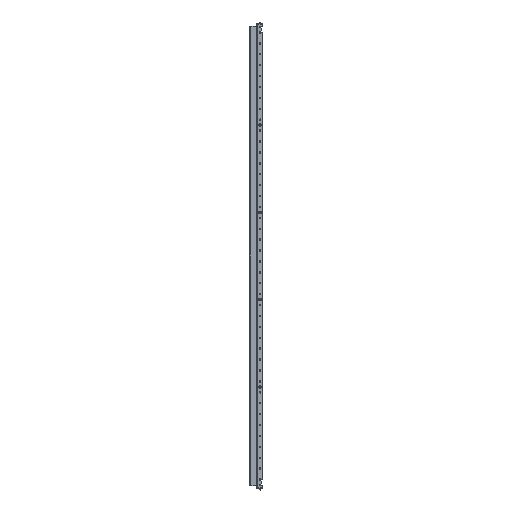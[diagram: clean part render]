
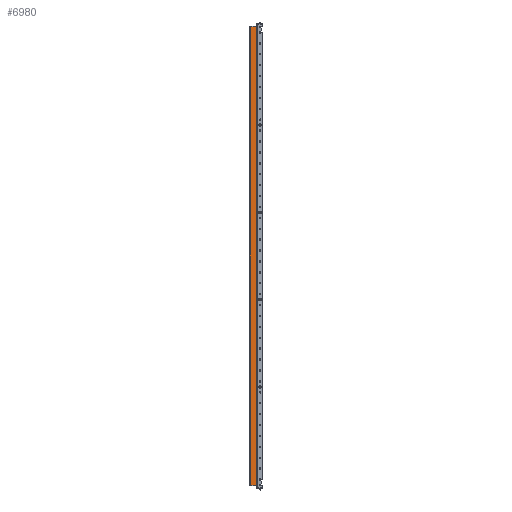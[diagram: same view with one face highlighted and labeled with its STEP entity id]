
A CAD part, front view. The second image highlights one B-rep face of the part: STEP entity #6980.
In plain terms, the highlighted planar face has unit normal (0, -1, 0).
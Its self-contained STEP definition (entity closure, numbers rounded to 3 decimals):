
#244 = DIRECTION ( 'NONE',  ( 0., 0., -1. ) ) ;
#884 = ORIENTED_EDGE ( 'NONE', *, *, #60366, .T. ) ;
#1297 = VECTOR ( 'NONE', #24193, 1000. ) ;
#3200 = PLANE ( 'NONE',  #31247 ) ;
#4088 = CARTESIAN_POINT ( 'NONE',  ( -26.493, -9.122, 3078. ) ) ;
#4331 = VECTOR ( 'NONE', #17402, 1000. ) ;
#4705 = CARTESIAN_POINT ( 'NONE',  ( -29.693, -9.122, 3090.5 ) ) ;
#6687 = VECTOR ( 'NONE', #29594, 1000. ) ;
#6980 = ADVANCED_FACE ( 'NONE', ( #31892 ), #3200, .F. ) ;
#10476 = CARTESIAN_POINT ( 'NONE',  ( 0.607, -9.122, 3078. ) ) ;
#11213 = CARTESIAN_POINT ( 'NONE',  ( -31.293, -9.122, 3078. ) ) ;
#12588 = ORIENTED_EDGE ( 'NONE', *, *, #25166, .T. ) ;
#12884 = VERTEX_POINT ( 'NONE', #13950 ) ;
#13492 = DIRECTION ( 'NONE',  ( 1., 0., 0. ) ) ;
#13672 = VERTEX_POINT ( 'NONE', #29780 ) ;
#13950 = CARTESIAN_POINT ( 'NONE',  ( -29.693, -9.122, 3078. ) ) ;
#14695 = LINE ( 'NONE', #48174, #4331 ) ;
#14963 = VECTOR ( 'NONE', #13492, 1000. ) ;
#15082 = ORIENTED_EDGE ( 'NONE', *, *, #50880, .F. ) ;
#17402 = DIRECTION ( 'NONE',  ( -1., 0., 0. ) ) ;
#17848 = DIRECTION ( 'NONE',  ( 0., 1., 0. ) ) ;
#18503 = EDGE_LOOP ( 'NONE', ( #49948, #15082, #40347, #12588, #18664, #48731, #46632, #884 ) ) ;
#18664 = ORIENTED_EDGE ( 'NONE', *, *, #39188, .F. ) ;
#19403 = CARTESIAN_POINT ( 'NONE',  ( -31.293, -9.122, 976. ) ) ;
#21361 = CARTESIAN_POINT ( 'NONE',  ( -26.493, -9.122, 976. ) ) ;
#22655 = VERTEX_POINT ( 'NONE', #40140 ) ;
#24193 = DIRECTION ( 'NONE',  ( 1., 0., 0. ) ) ;
#24873 = EDGE_CURVE ( 'NONE', #12884, #13672, #48053, .T. ) ;
#25166 = EDGE_CURVE ( 'NONE', #26850, #44383, #57151, .T. ) ;
#26850 = VERTEX_POINT ( 'NONE', #57609 ) ;
#29475 = CARTESIAN_POINT ( 'NONE',  ( 2.307, -9.122, 976. ) ) ;
#29594 = DIRECTION ( 'NONE',  ( -1., 0., 0. ) ) ;
#29780 = CARTESIAN_POINT ( 'NONE',  ( -29.693, -9.122, 976. ) ) ;
#29996 = VERTEX_POINT ( 'NONE', #4088 ) ;
#31233 = LINE ( 'NONE', #50683, #38200 ) ;
#31247 = AXIS2_PLACEMENT_3D ( 'NONE', #46243, #17848, #46547 ) ;
#31607 = EDGE_CURVE ( 'NONE', #60865, #29996, #56764, .T. ) ;
#31803 = VERTEX_POINT ( 'NONE', #21361 ) ;
#31892 = FACE_OUTER_BOUND ( 'NONE', #18503, .T. ) ;
#32555 = CARTESIAN_POINT ( 'NONE',  ( -28.193, -9.122, 3078. ) ) ;
#32631 = CARTESIAN_POINT ( 'NONE',  ( -28.193, -9.122, 976. ) ) ;
#33012 = EDGE_CURVE ( 'NONE', #60865, #22655, #60271, .T. ) ;
#33754 = LINE ( 'NONE', #53191, #1297 ) ;
#38200 = VECTOR ( 'NONE', #41107, 1000. ) ;
#39188 = EDGE_CURVE ( 'NONE', #22655, #44383, #31233, .T. ) ;
#40140 = CARTESIAN_POINT ( 'NONE',  ( 2.307, -9.122, 3078. ) ) ;
#40347 = ORIENTED_EDGE ( 'NONE', *, *, #60723, .T. ) ;
#41107 = DIRECTION ( 'NONE',  ( 0., 0., -1. ) ) ;
#44383 = VERTEX_POINT ( 'NONE', #29475 ) ;
#46243 = CARTESIAN_POINT ( 'NONE',  ( -28.193, -9.122, 3090.5 ) ) ;
#46547 = DIRECTION ( 'NONE',  ( 0., 0., 1. ) ) ;
#46632 = ORIENTED_EDGE ( 'NONE', *, *, #31607, .T. ) ;
#48053 = LINE ( 'NONE', #4705, #51675 ) ;
#48174 = CARTESIAN_POINT ( 'NONE',  ( -28.193, -9.122, 3078. ) ) ;
#48603 = VECTOR ( 'NONE', #52000, 1000. ) ;
#48711 = LINE ( 'NONE', #19403, #6687 ) ;
#48731 = ORIENTED_EDGE ( 'NONE', *, *, #33012, .F. ) ;
#49948 = ORIENTED_EDGE ( 'NONE', *, *, #24873, .T. ) ;
#50683 = CARTESIAN_POINT ( 'NONE',  ( 2.307, -9.122, 3090.5 ) ) ;
#50880 = EDGE_CURVE ( 'NONE', #31803, #13672, #48711, .T. ) ;
#51675 = VECTOR ( 'NONE', #244, 1000. ) ;
#52000 = DIRECTION ( 'NONE',  ( -1., 0., 0. ) ) ;
#53191 = CARTESIAN_POINT ( 'NONE',  ( -28.193, -9.122, 976. ) ) ;
#55703 = VECTOR ( 'NONE', #56137, 1000. ) ;
#56137 = DIRECTION ( 'NONE',  ( 1., 0., 0. ) ) ;
#56764 = LINE ( 'NONE', #32555, #48603 ) ;
#57151 = LINE ( 'NONE', #32631, #14963 ) ;
#57609 = CARTESIAN_POINT ( 'NONE',  ( 0.607, -9.122, 976. ) ) ;
#60271 = LINE ( 'NONE', #11213, #55703 ) ;
#60366 = EDGE_CURVE ( 'NONE', #29996, #12884, #14695, .T. ) ;
#60723 = EDGE_CURVE ( 'NONE', #31803, #26850, #33754, .T. ) ;
#60865 = VERTEX_POINT ( 'NONE', #10476 ) ;
